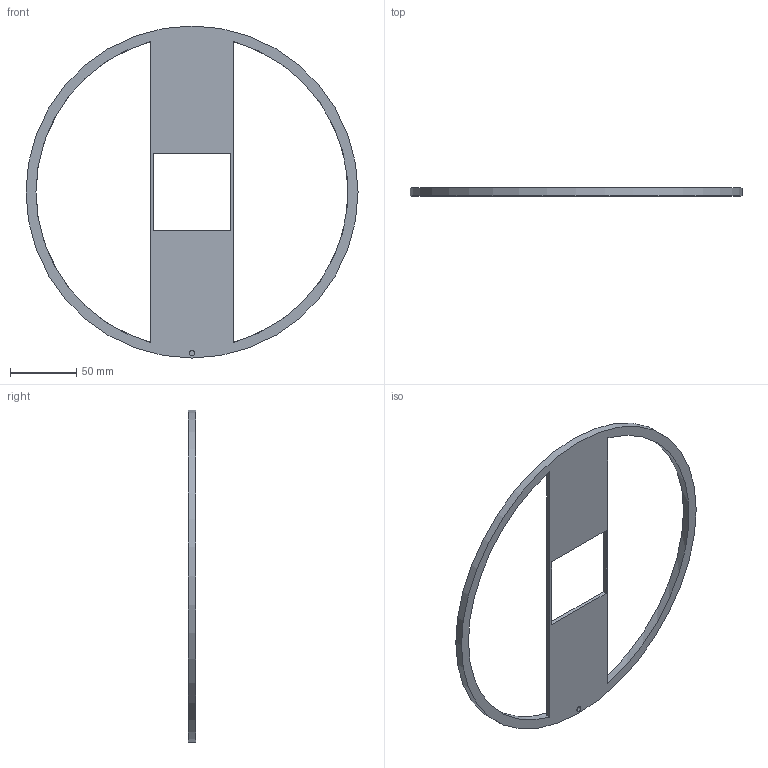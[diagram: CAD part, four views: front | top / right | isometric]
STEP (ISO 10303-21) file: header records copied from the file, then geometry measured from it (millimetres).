
FILE_DESCRIPTION(/* description */ (''),/* implementation_level */ '2;1');
FILE_NAME(/* name */ 'telaio.step',/* time_stamp */ '2026-06-01T23:23:57+02:00',/* author */ (''),/* organization */ (''),/* preprocessor_version */ 'ST-DEVELOPER v20.1',/* originating_system */ 'Autodesk Translation Framework v15.8.0.0',/* authorisation */ '');
FILE_SCHEMA (('AUTOMOTIVE_DESIGN { 1 0 10303 214 3 1 1 }'));
Length unit declared in the file: millimetre
Products named in the file (1): (Non salvato)
Bounding box: 250 x 6 x 250 mm (x, y, z)
Volume: 67325.3 mm3; surface area: 44382.3 mm2
Topology: 1 solids, 1 shells, 13 faces, 33 edges, 22 vertices
Faces by surface type: plane 10, cylinder 3
Full cylindrical faces by diameter (mm): 4 x1, 235 x1, 250 x1
Entity records: 456 total; most frequent: DIRECTION 71, CARTESIAN_POINT 69, ORIENTED_EDGE 66, EDGE_CURVE 33, AXIS2_PLACEMENT_3D 24, LINE 23, VECTOR 23, VERTEX_POINT 22
